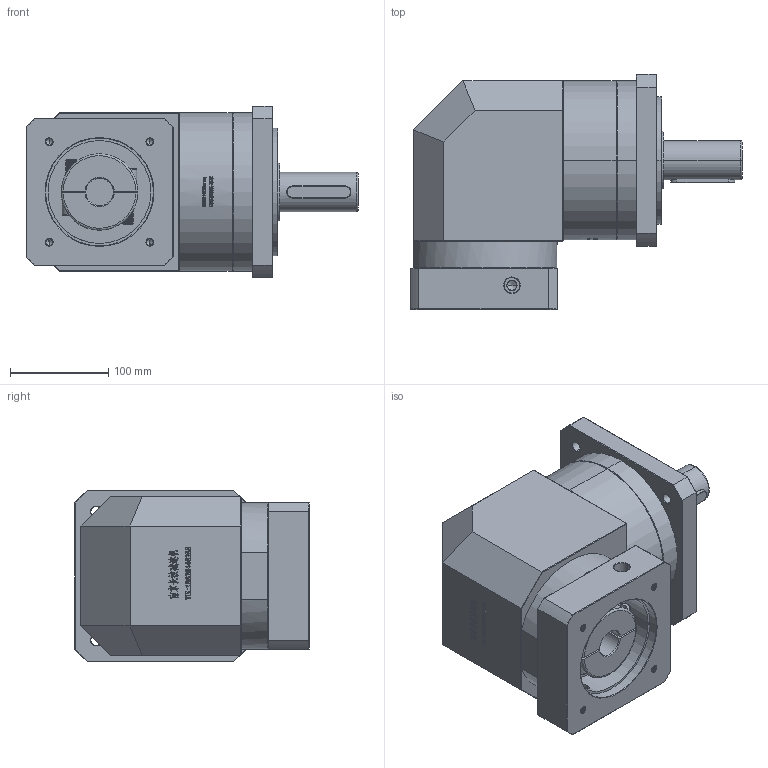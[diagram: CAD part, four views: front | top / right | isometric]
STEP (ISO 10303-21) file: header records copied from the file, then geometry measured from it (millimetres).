
FILE_DESCRIPTION (( 'STEP AP214' ), '1' );
FILE_NAME ('ZFR160A-D40-L1-28-110-145-M8.step', '2023-03-22T11:42:58', ( '' ), ( '' ), 'SwSTEP 2.0', 'SolidWorks 2016', '' );
FILE_SCHEMA (( 'AUTOMOTIVE_DESIGN' ));
Length unit declared in the file: millimetre
Products named in the file (1): ZFR160A-D40-L1-28-110-145-M8
Bounding box: 338.7 x 239.5 x 175 mm (x, y, z)
Volume: 6590334.3 mm3; surface area: 431832.8 mm2
Topology: 6 solids, 6 shells, 2544 faces, 6694 edges, 4303 vertices
Faces by surface type: plane 1275, bspline 501, cylinder 438, cone 308, torus 22
Entity records: 144921 total; most frequent: CARTESIAN_POINT 58705, ORIENTED_EDGE 13328, DIRECTION 10087, EDGE_CURVE 6664, VERTEX_POINT 4303, LINE 4179, VECTOR 4179, AXIS2_PLACEMENT_3D 2954
